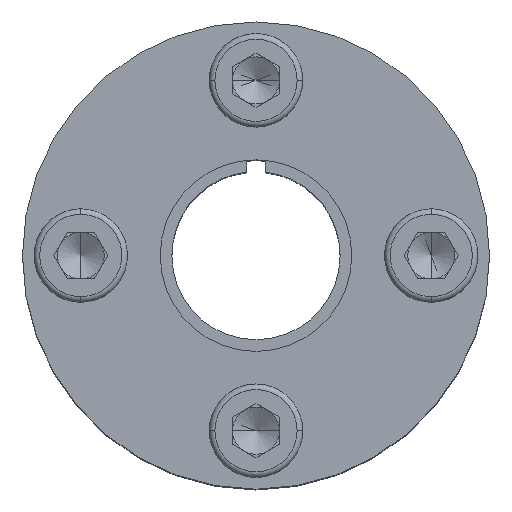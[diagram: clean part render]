
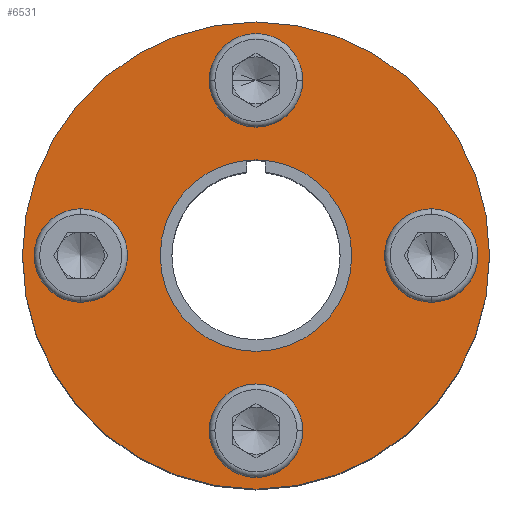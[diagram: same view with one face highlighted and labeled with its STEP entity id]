
A CAD part, top view. The second image highlights one B-rep face of the part: STEP entity #6531.
In plain terms, the highlighted planar face has unit normal (0, 0, 1).
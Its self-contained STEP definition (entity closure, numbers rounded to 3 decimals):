
#4 = DIRECTION ( 'NONE',  ( 1., 0., 0. ) ) ;
#12 = DIRECTION ( 'NONE',  ( 0., 0., -1. ) ) ;
#14 = DIRECTION ( 'NONE',  ( 0., 0., -1. ) ) ;
#22 = FACE_BOUND ( 'NONE', #6203, .T. ) ;
#32 = CIRCLE ( 'NONE', #6166, 3.5 ) ;
#175 = CARTESIAN_POINT ( 'NONE',  ( 0., 18.75, 48.495 ) ) ;
#433 = EDGE_CURVE ( 'NONE', #2014, #6470, #3986, .T. ) ;
#457 = DIRECTION ( 'NONE',  ( 0., 0., -1. ) ) ;
#494 = AXIS2_PLACEMENT_3D ( 'NONE', #3075, #12, #3587 ) ;
#675 = DIRECTION ( 'NONE',  ( 1., 0., 0. ) ) ;
#677 = EDGE_LOOP ( 'NONE', ( #3125, #2000 ) ) ;
#688 = EDGE_CURVE ( 'NONE', #2086, #5664, #5339, .T. ) ;
#811 = AXIS2_PLACEMENT_3D ( 'NONE', #3076, #14, #3589 ) ;
#869 = VERTEX_POINT ( 'NONE', #1889 ) ;
#886 = CIRCLE ( 'NONE', #3377, 3.5 ) ;
#907 = EDGE_CURVE ( 'NONE', #5601, #5046, #3263, .T. ) ;
#969 = ORIENTED_EDGE ( 'NONE', *, *, #2513, .T. ) ;
#982 = CARTESIAN_POINT ( 'NONE',  ( -25., 0., 48.495 ) ) ;
#984 = CIRCLE ( 'NONE', #811, 3.5 ) ;
#987 = ORIENTED_EDGE ( 'NONE', *, *, #2997, .T. ) ;
#1015 = VERTEX_POINT ( 'NONE', #1555 ) ;
#1074 = AXIS2_PLACEMENT_3D ( 'NONE', #4914, #1855, #5431 ) ;
#1272 = AXIS2_PLACEMENT_3D ( 'NONE', #4414, #1351, #4928 ) ;
#1317 = DIRECTION ( 'NONE',  ( 0., 0., -1. ) ) ;
#1351 = DIRECTION ( 'NONE',  ( 0., 0., -1. ) ) ;
#1379 = FACE_BOUND ( 'NONE', #677, .T. ) ;
#1510 = VERTEX_POINT ( 'NONE', #6572 ) ;
#1555 = CARTESIAN_POINT ( 'NONE',  ( 3.5, 18.75, 48.495 ) ) ;
#1591 = EDGE_CURVE ( 'NONE', #5258, #1510, #984, .T. ) ;
#1618 = CIRCLE ( 'NONE', #5435, 3.5 ) ;
#1678 = CARTESIAN_POINT ( 'NONE',  ( 3.5, -18.75, 48.495 ) ) ;
#1728 = DIRECTION ( 'NONE',  ( 0., 0., -1. ) ) ;
#1784 = CARTESIAN_POINT ( 'NONE',  ( 0., 0., 48.495 ) ) ;
#1855 = DIRECTION ( 'NONE',  ( 0., 0., -1. ) ) ;
#1889 = CARTESIAN_POINT ( 'NONE',  ( 15.25, 0., 48.495 ) ) ;
#1912 = CARTESIAN_POINT ( 'NONE',  ( 10.25, 0., 48.495 ) ) ;
#1935 = EDGE_LOOP ( 'NONE', ( #3090, #6131 ) ) ;
#1937 = CARTESIAN_POINT ( 'NONE',  ( 25., 0., 48.495 ) ) ;
#1940 = EDGE_LOOP ( 'NONE', ( #2142, #4947 ) ) ;
#1982 = DIRECTION ( 'NONE',  ( 0., 0., -1. ) ) ;
#2000 = ORIENTED_EDGE ( 'NONE', *, *, #6401, .T. ) ;
#2014 = VERTEX_POINT ( 'NONE', #1912 ) ;
#2027 = ORIENTED_EDGE ( 'NONE', *, *, #2761, .T. ) ;
#2064 = AXIS2_PLACEMENT_3D ( 'NONE', #2217, #6286, #4757 ) ;
#2065 = CARTESIAN_POINT ( 'NONE',  ( -3.5, 18.75, 48.495 ) ) ;
#2086 = VERTEX_POINT ( 'NONE', #1937 ) ;
#2142 = ORIENTED_EDGE ( 'NONE', *, *, #907, .T. ) ;
#2196 = CARTESIAN_POINT ( 'NONE',  ( 0., 18.75, 48.495 ) ) ;
#2216 = ORIENTED_EDGE ( 'NONE', *, *, #433, .T. ) ;
#2217 = CARTESIAN_POINT ( 'NONE',  ( 0., 0., 48.495 ) ) ;
#2297 = DIRECTION ( 'NONE',  ( 1., 0., 0. ) ) ;
#2513 = EDGE_CURVE ( 'NONE', #1510, #5258, #4882, .T. ) ;
#2677 = EDGE_LOOP ( 'NONE', ( #2027, #987 ) ) ;
#2714 = DIRECTION ( 'NONE',  ( 1., 0., 0. ) ) ;
#2761 = EDGE_CURVE ( 'NONE', #5669, #869, #5747, .T. ) ;
#2899 = CIRCLE ( 'NONE', #5240, 25. ) ;
#2997 = EDGE_CURVE ( 'NONE', #869, #5669, #4112, .T. ) ;
#3066 = DIRECTION ( 'NONE',  ( 0., 0., -1. ) ) ;
#3075 = CARTESIAN_POINT ( 'NONE',  ( 18.75, 0., 48.495 ) ) ;
#3076 = CARTESIAN_POINT ( 'NONE',  ( 0., -18.75, 48.495 ) ) ;
#3090 = ORIENTED_EDGE ( 'NONE', *, *, #4950, .F. ) ;
#3125 = ORIENTED_EDGE ( 'NONE', *, *, #6411, .T. ) ;
#3263 = CIRCLE ( 'NONE', #6243, 3.5 ) ;
#3377 = AXIS2_PLACEMENT_3D ( 'NONE', #2196, #5768, #2714 ) ;
#3499 = AXIS2_PLACEMENT_3D ( 'NONE', #4376, #1317, #4898 ) ;
#3527 = CARTESIAN_POINT ( 'NONE',  ( 0., 0., 48.495 ) ) ;
#3587 = DIRECTION ( 'NONE',  ( 1., 0., 0. ) ) ;
#3589 = DIRECTION ( 'NONE',  ( 1., 0., 0. ) ) ;
#3736 = EDGE_CURVE ( 'NONE', #5046, #5601, #32, .T. ) ;
#3757 = DIRECTION ( 'NONE',  ( 0., 0., -1. ) ) ;
#3782 = CARTESIAN_POINT ( 'NONE',  ( -10.25, 0., 48.495 ) ) ;
#3784 = FACE_OUTER_BOUND ( 'NONE', #1935, .T. ) ;
#3945 = FACE_BOUND ( 'NONE', #2677, .T. ) ;
#3986 = CIRCLE ( 'NONE', #6082, 10.25 ) ;
#4040 = DIRECTION ( 'NONE',  ( 1., 0., 0. ) ) ;
#4112 = CIRCLE ( 'NONE', #1272, 3.5 ) ;
#4376 = CARTESIAN_POINT ( 'NONE',  ( 0., 0., 48.495 ) ) ;
#4414 = CARTESIAN_POINT ( 'NONE',  ( 18.75, 0., 48.495 ) ) ;
#4473 = ORIENTED_EDGE ( 'NONE', *, *, #5887, .T. ) ;
#4547 = VERTEX_POINT ( 'NONE', #2065 ) ;
#4563 = CARTESIAN_POINT ( 'NONE',  ( -15.25, 0., 48.495 ) ) ;
#4601 = CARTESIAN_POINT ( 'NONE',  ( 22.25, 0., 48.495 ) ) ;
#4757 = DIRECTION ( 'NONE',  ( 1., 0., 0. ) ) ;
#4794 = CARTESIAN_POINT ( 'NONE',  ( -18.75, 0., 48.495 ) ) ;
#4860 = CIRCLE ( 'NONE', #6063, 10.25 ) ;
#4873 = PLANE ( 'NONE',  #3499 ) ;
#4882 = CIRCLE ( 'NONE', #1074, 3.5 ) ;
#4898 = DIRECTION ( 'NONE',  ( 1., 0., 0. ) ) ;
#4914 = CARTESIAN_POINT ( 'NONE',  ( 0., -18.75, 48.495 ) ) ;
#4928 = DIRECTION ( 'NONE',  ( 1., 0., 0. ) ) ;
#4947 = ORIENTED_EDGE ( 'NONE', *, *, #3736, .T. ) ;
#4950 = EDGE_CURVE ( 'NONE', #5664, #2086, #2899, .T. ) ;
#5038 = CARTESIAN_POINT ( 'NONE',  ( 0., 0., 48.495 ) ) ;
#5046 = VERTEX_POINT ( 'NONE', #6119 ) ;
#5090 = EDGE_LOOP ( 'NONE', ( #5986, #969 ) ) ;
#5143 = FACE_BOUND ( 'NONE', #5090, .T. ) ;
#5240 = AXIS2_PLACEMENT_3D ( 'NONE', #5038, #1982, #5562 ) ;
#5258 = VERTEX_POINT ( 'NONE', #1678 ) ;
#5305 = FACE_BOUND ( 'NONE', #1940, .T. ) ;
#5313 = DIRECTION ( 'NONE',  ( 1., 0., 0. ) ) ;
#5339 = CIRCLE ( 'NONE', #2064, 25. ) ;
#5364 = DIRECTION ( 'NONE',  ( 0., 0., -1. ) ) ;
#5431 = DIRECTION ( 'NONE',  ( 1., 0., 0. ) ) ;
#5435 = AXIS2_PLACEMENT_3D ( 'NONE', #175, #3757, #675 ) ;
#5562 = DIRECTION ( 'NONE',  ( 1., 0., 0. ) ) ;
#5601 = VERTEX_POINT ( 'NONE', #4563 ) ;
#5664 = VERTEX_POINT ( 'NONE', #982 ) ;
#5669 = VERTEX_POINT ( 'NONE', #4601 ) ;
#5747 = CIRCLE ( 'NONE', #494, 3.5 ) ;
#5768 = DIRECTION ( 'NONE',  ( 0., 0., -1. ) ) ;
#5887 = EDGE_CURVE ( 'NONE', #6470, #2014, #4860, .T. ) ;
#5986 = ORIENTED_EDGE ( 'NONE', *, *, #1591, .T. ) ;
#6063 = AXIS2_PLACEMENT_3D ( 'NONE', #1784, #5364, #2297 ) ;
#6082 = AXIS2_PLACEMENT_3D ( 'NONE', #3527, #457, #4040 ) ;
#6116 = CARTESIAN_POINT ( 'NONE',  ( -18.75, 0., 48.495 ) ) ;
#6119 = CARTESIAN_POINT ( 'NONE',  ( -22.25, 0., 48.495 ) ) ;
#6131 = ORIENTED_EDGE ( 'NONE', *, *, #688, .F. ) ;
#6166 = AXIS2_PLACEMENT_3D ( 'NONE', #4794, #1728, #5313 ) ;
#6203 = EDGE_LOOP ( 'NONE', ( #2216, #4473 ) ) ;
#6243 = AXIS2_PLACEMENT_3D ( 'NONE', #6116, #3066, #4 ) ;
#6286 = DIRECTION ( 'NONE',  ( 0., 0., -1. ) ) ;
#6401 = EDGE_CURVE ( 'NONE', #4547, #1015, #886, .T. ) ;
#6411 = EDGE_CURVE ( 'NONE', #1015, #4547, #1618, .T. ) ;
#6470 = VERTEX_POINT ( 'NONE', #3782 ) ;
#6531 = ADVANCED_FACE ( 'NONE', ( #5305, #1379, #3945, #5143, #22, #3784 ), #4873, .F. ) ;
#6572 = CARTESIAN_POINT ( 'NONE',  ( -3.5, -18.75, 48.495 ) ) ;
